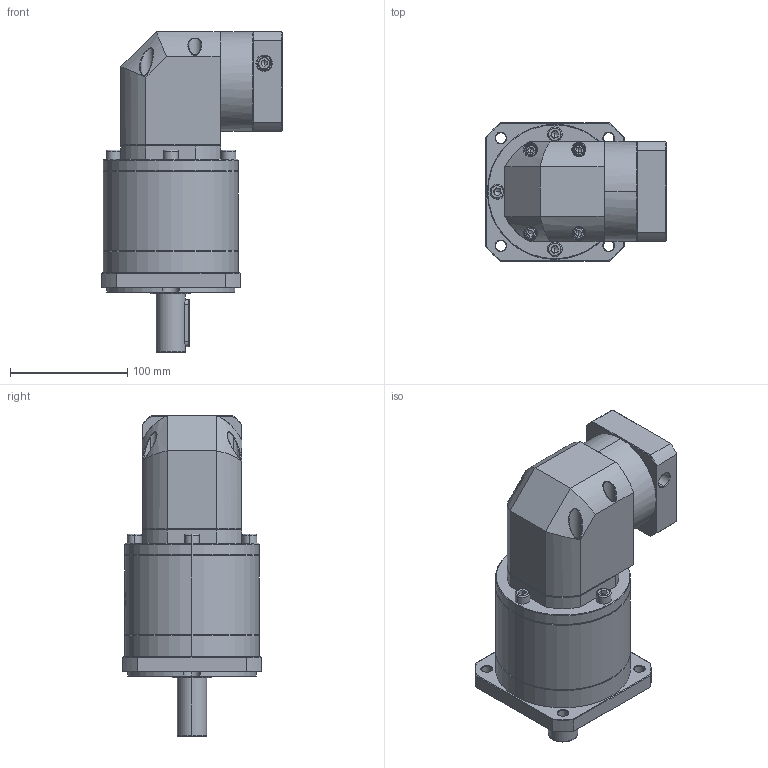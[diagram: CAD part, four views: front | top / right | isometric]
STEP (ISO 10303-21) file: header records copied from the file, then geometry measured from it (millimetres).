
FILE_DESCRIPTION (( 'STEP AP214' ), '1' );
FILE_NAME ('ZFR120A-D25-L3-P2-14-73-69.6X69.6-M6.step', '2023-08-27T09:16:51', ( '' ), ( '' ), 'SwSTEP 2.0', 'SolidWorks 2016', '' );
FILE_SCHEMA (( 'AUTOMOTIVE_DESIGN' ));
Length unit declared in the file: millimetre
Products named in the file (1): ZFR120A-D25-L3-P2-14-73-69.6X69.6-M6
Bounding box: 154.1 x 118 x 273.5 mm (x, y, z)
Volume: 2148026.2 mm3; surface area: 181330.2 mm2
Topology: 6 solids, 6 shells, 2393 faces, 6262 edges, 3975 vertices
Faces by surface type: plane 1155, cylinder 453, bspline 443, cone 328, torus 14
Entity records: 129700 total; most frequent: CARTESIAN_POINT 50235, ORIENTED_EDGE 12432, DIRECTION 9160, EDGE_CURVE 6216, VERTEX_POINT 3975, VECTOR 3338, LINE 3338, AXIS2_PLACEMENT_3D 2911
